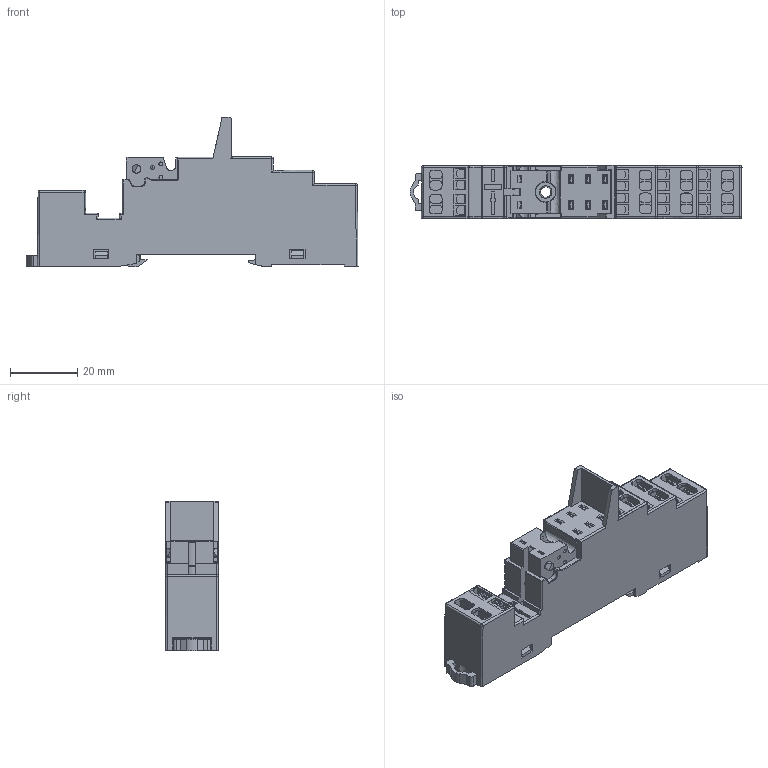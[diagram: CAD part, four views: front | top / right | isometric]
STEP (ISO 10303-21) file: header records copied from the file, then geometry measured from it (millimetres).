
FILE_DESCRIPTION(('STEP AP214'),'2;1');
FILE_NAME('9555.stp','2017-10-30T16:37:20',(''),(''),'2007.1.106','THINKDESIGN','');
FILE_SCHEMA(('AUTOMOTIVE_DESIGN'));
Length unit declared in the file: millimetre
Products named in the file (1): top
Bounding box: 99 x 15.88 x 44.7 mm (x, y, z)
Volume: 511.5 mm3; surface area: 26081.2 mm2
Topology: 1 solids, 1 shells, 1311 faces, 7332 edges, 7220 vertices
Faces by surface type: bspline 1311
Entity records: 46206 total; most frequent: CARTESIAN_POINT 27036, COMPOSITE_CURVE_SEGMENT 7050, QUASI_UNIFORM_CURVE 5030, STYLED_ITEM 1240, OUTER_BOUNDARY_CURVE 1239, CURVE_BOUNDED_SURFACE 1239, B_SPLINE_CURVE_WITH_KNOTS 1146, B_SPLINE_SURFACE_WITH_KNOTS 933
